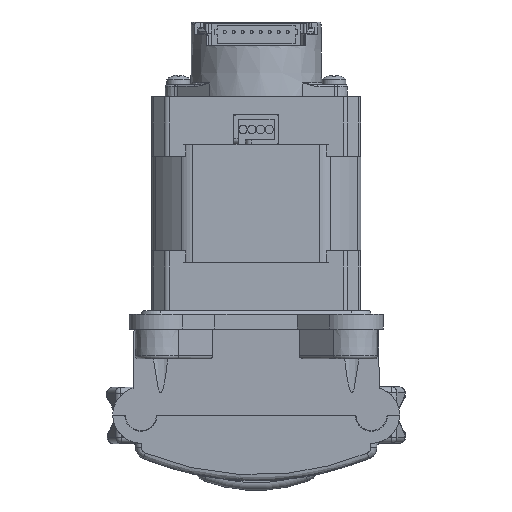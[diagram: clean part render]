
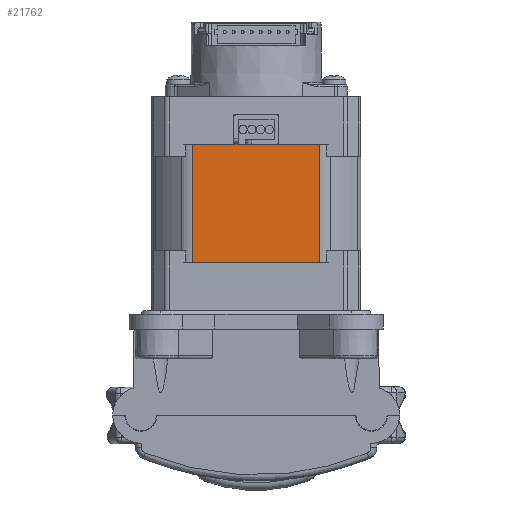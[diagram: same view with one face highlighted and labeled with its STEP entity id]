
A CAD part, front view. The second image highlights one B-rep face of the part: STEP entity #21762.
In plain terms, the highlighted planar face has unit normal (0, -1, 0) as drawn and (1, 0, 0) by its records, which use the part's own axes.
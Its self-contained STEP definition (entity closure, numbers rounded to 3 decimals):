
#1059 = VERTEX_POINT ( 'NONE', #45897 ) ;
#2284 = DIRECTION ( 'NONE',  ( 0., 0., 1. ) ) ;
#2313 = ORIENTED_EDGE ( 'NONE', *, *, #46084, .T. ) ;
#2955 = CARTESIAN_POINT ( 'NONE',  ( 17.5, 3.8, -27.8 ) ) ;
#3824 = LINE ( 'NONE', #4552, #4860 ) ;
#4323 = CARTESIAN_POINT ( 'NONE',  ( 17.5, 14.586, -8. ) ) ;
#4423 = CARTESIAN_POINT ( 'NONE',  ( 17.5, 1.8, -27.8 ) ) ;
#4552 = CARTESIAN_POINT ( 'NONE',  ( 17.5, 3.8, -27.8 ) ) ;
#4860 = VECTOR ( 'NONE', #20980, 1000. ) ;
#6587 = EDGE_CURVE ( 'NONE', #61465, #16832, #3824, .T. ) ;
#8012 = ORIENTED_EDGE ( 'NONE', *, *, #6587, .F. ) ;
#8826 = DIRECTION ( 'NONE',  ( 0., 1., 0. ) ) ;
#10550 = VECTOR ( 'NONE', #2284, 1000. ) ;
#10622 = VECTOR ( 'NONE', #25749, 1000. ) ;
#12530 = VECTOR ( 'NONE', #61598, 1000. ) ;
#14375 = ORIENTED_EDGE ( 'NONE', *, *, #15797, .F. ) ;
#14656 = ORIENTED_EDGE ( 'NONE', *, *, #51878, .F. ) ;
#15797 = EDGE_CURVE ( 'NONE', #1059, #64436, #55156, .T. ) ;
#16430 = CARTESIAN_POINT ( 'NONE',  ( 17.5, 10.665, -8. ) ) ;
#16832 = VERTEX_POINT ( 'NONE', #50591 ) ;
#18983 = DIRECTION ( 'NONE',  ( 0., 1., 0. ) ) ;
#20980 = DIRECTION ( 'NONE',  ( 0., -1., 0. ) ) ;
#21762 = ADVANCED_FACE ( 'NONE', ( #45142 ), #40656, .T. ) ;
#23877 = VECTOR ( 'NONE', #49091, 1000. ) ;
#25170 = CARTESIAN_POINT ( 'NONE',  ( 17.5, -3.8, -27.8 ) ) ;
#25730 = CARTESIAN_POINT ( 'NONE',  ( 17.5, 10.665, -8. ) ) ;
#25749 = DIRECTION ( 'NONE',  ( 0., 0., -1. ) ) ;
#27459 = ORIENTED_EDGE ( 'NONE', *, *, #33434, .F. ) ;
#28317 = LINE ( 'NONE', #73538, #12530 ) ;
#31935 = VECTOR ( 'NONE', #73514, 1000. ) ;
#32965 = EDGE_CURVE ( 'NONE', #44895, #57349, #64369, .T. ) ;
#33157 = CARTESIAN_POINT ( 'NONE',  ( 17.5, 14.586, -8. ) ) ;
#33434 = EDGE_CURVE ( 'NONE', #61439, #61465, #53784, .T. ) ;
#34366 = ORIENTED_EDGE ( 'NONE', *, *, #48779, .T. ) ;
#34729 = ORIENTED_EDGE ( 'NONE', *, *, #49609, .T. ) ;
#36203 = LINE ( 'NONE', #25730, #10550 ) ;
#37329 = EDGE_CURVE ( 'NONE', #1059, #43127, #65773, .T. ) ;
#37896 = VECTOR ( 'NONE', #70636, 1000. ) ;
#39532 = CARTESIAN_POINT ( 'NONE',  ( 17.5, 14.586, -27.8 ) ) ;
#40656 = PLANE ( 'NONE',  #61672 ) ;
#43102 = VERTEX_POINT ( 'NONE', #25170 ) ;
#43127 = VERTEX_POINT ( 'NONE', #61023 ) ;
#43568 = EDGE_LOOP ( 'NONE', ( #34366, #14656, #8012, #27459, #34729, #69632, #2313, #14375, #54934 ) ) ;
#44895 = VERTEX_POINT ( 'NONE', #56807 ) ;
#45142 = FACE_OUTER_BOUND ( 'NONE', #43568, .T. ) ;
#45143 = VECTOR ( 'NONE', #54484, 1000. ) ;
#45897 = CARTESIAN_POINT ( 'NONE',  ( 17.5, -10.665, -8. ) ) ;
#46084 = EDGE_CURVE ( 'NONE', #57349, #64436, #36203, .T. ) ;
#48717 = LINE ( 'NONE', #70391, #23877 ) ;
#48779 = EDGE_CURVE ( 'NONE', #43127, #43102, #28317, .T. ) ;
#49091 = DIRECTION ( 'NONE',  ( 0., -1., 0. ) ) ;
#49609 = EDGE_CURVE ( 'NONE', #61439, #44895, #55292, .T. ) ;
#50009 = CARTESIAN_POINT ( 'NONE',  ( 17.5, 3., -27.8 ) ) ;
#50591 = CARTESIAN_POINT ( 'NONE',  ( 17.5, -3.2, -27.8 ) ) ;
#51878 = EDGE_CURVE ( 'NONE', #16832, #43102, #48717, .T. ) ;
#53094 = CARTESIAN_POINT ( 'NONE',  ( 17.5, 10.665, -27.8 ) ) ;
#53784 = LINE ( 'NONE', #2955, #45143 ) ;
#54484 = DIRECTION ( 'NONE',  ( 0., -1., 0. ) ) ;
#54880 = VECTOR ( 'NONE', #8826, 1000. ) ;
#54934 = ORIENTED_EDGE ( 'NONE', *, *, #37329, .T. ) ;
#55156 = LINE ( 'NONE', #4323, #54880 ) ;
#55292 = LINE ( 'NONE', #65015, #37896 ) ;
#56807 = CARTESIAN_POINT ( 'NONE',  ( 17.5, 3.8, -27.8 ) ) ;
#57349 = VERTEX_POINT ( 'NONE', #53094 ) ;
#60500 = CARTESIAN_POINT ( 'NONE',  ( 17.5, -10.665, -27.8 ) ) ;
#61023 = CARTESIAN_POINT ( 'NONE',  ( 17.5, -10.665, -27.8 ) ) ;
#61439 = VERTEX_POINT ( 'NONE', #50009 ) ;
#61465 = VERTEX_POINT ( 'NONE', #4423 ) ;
#61598 = DIRECTION ( 'NONE',  ( 0., 1., 0. ) ) ;
#61672 = AXIS2_PLACEMENT_3D ( 'NONE', #33157, #64898, #18983 ) ;
#64369 = LINE ( 'NONE', #39532, #31935 ) ;
#64436 = VERTEX_POINT ( 'NONE', #16430 ) ;
#64898 = DIRECTION ( 'NONE',  ( 1., 0., 0. ) ) ;
#65015 = CARTESIAN_POINT ( 'NONE',  ( 17.5, 3., -27.8 ) ) ;
#65773 = LINE ( 'NONE', #60500, #10622 ) ;
#69632 = ORIENTED_EDGE ( 'NONE', *, *, #32965, .T. ) ;
#70391 = CARTESIAN_POINT ( 'NONE',  ( 17.5, 3.8, -27.8 ) ) ;
#70636 = DIRECTION ( 'NONE',  ( 0., 1., 0. ) ) ;
#73514 = DIRECTION ( 'NONE',  ( 0., 1., 0. ) ) ;
#73538 = CARTESIAN_POINT ( 'NONE',  ( 17.5, 14.586, -27.8 ) ) ;
